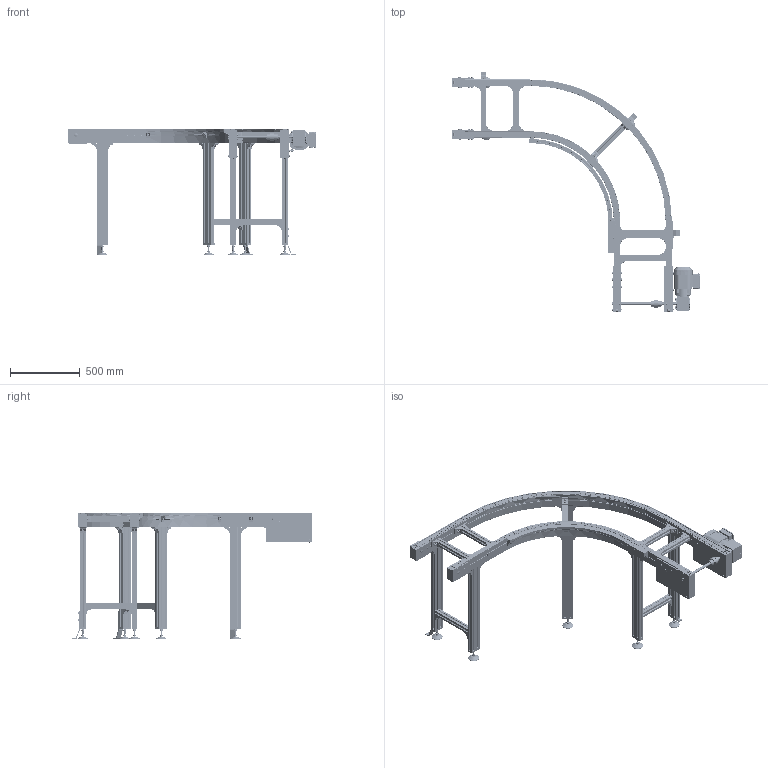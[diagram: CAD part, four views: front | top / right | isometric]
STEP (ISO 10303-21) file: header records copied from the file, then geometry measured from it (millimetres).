
FILE_DESCRIPTION(/* description */ (''),/* implementation_level */ '2;1');
FILE_NAME(/* name */ 'C:\Marketing\01_Versamove-SPU_STEP-Dateien-Homepage\VersamoveStandard\B400\STEP-Dateien\Flachplattenförderer_FPF-P-2045_Kurve90-rechts_B400.stp',/* time_stamp */ '2016-12-20T09:30:22+01:00',/* author */ ('herbert.engels'),/* organization */ (''),/* preprocessor_version */ 'ST-DEVELOPER v15.6',/* originating_system */ 'Autodesk Inventor 2015',/* authorisation */ '');
FILE_SCHEMA (('CONFIG_CONTROL_DESIGN'));
Products named in the file (1): Flachplattenförderer_FPF-P-2045_Kurve90-rechts_B4
00
Bounding box: 1769.7 x 1723 x 905.3 mm (x, y, z)
Volume: 33705029 mm3; surface area: 8301498 mm2
Topology: 5 solids, 5 shells, 8734 faces, 24598 edges, 15685 vertices
Faces by surface type: plane 5652, cylinder 2189, cone 516, torus 293, sphere 68, bspline 16
Full cylindrical faces by diameter (mm): 2 x8, 6 x14, 6.647 x8, 7.323 x4, 8 x116, 8.7 x4, 9 x28, 10 x8, 10.066 x1, 11 x4, 11.4 x22, 12 x12, 13 x108, 13.6 x8, 14 x72, 15 x12, 16 x16, 18 x4, 19 x4, 19.77 x4, 20 x17, 25 x1, 25.05 x4, 28 x1, 30 x2, 40 x2, 53 x1, 54 x2, 56 x3, 79 x6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
Entity records: 289715 total; most frequent: CARTESIAN_POINT 56185, ORIENTED_EDGE 47056, DIRECTION 45798, EDGE_CURVE 23504, LINE 16098, VECTOR 16098, VERTEX_POINT 15371, AXIS2_PLACEMENT_3D 14850
